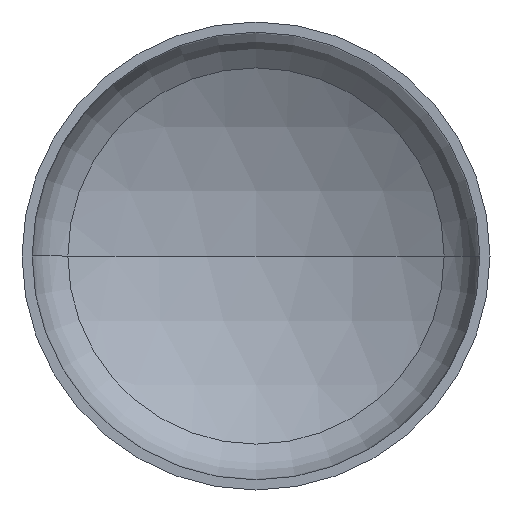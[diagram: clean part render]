
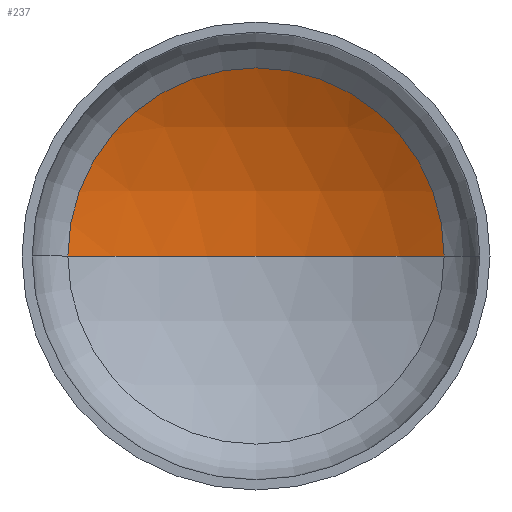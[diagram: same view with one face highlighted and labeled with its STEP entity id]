
A CAD part, front view. The second image highlights one B-rep face of the part: STEP entity #237.
In plain terms, the highlighted spherical face has radius 406 mm.
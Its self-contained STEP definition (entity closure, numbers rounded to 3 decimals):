
#12 = CIRCLE ( 'NONE', #102, 406. ) ;
#22 = DIRECTION ( 'NONE',  ( -1., 0., 0. ) ) ;
#24 = EDGE_LOOP ( 'NONE', ( #215, #160, #108 ) ) ;
#38 = VERTEX_POINT ( 'NONE', #251 ) ;
#41 = DIRECTION ( 'NONE',  ( 0., 0., -1. ) ) ;
#42 = AXIS2_PLACEMENT_3D ( 'NONE', #399, #41, #406 ) ;
#58 = VERTEX_POINT ( 'NONE', #308 ) ;
#93 = AXIS2_PLACEMENT_3D ( 'NONE', #398, #254, #201 ) ;
#97 = VERTEX_POINT ( 'NONE', #347 ) ;
#102 = AXIS2_PLACEMENT_3D ( 'NONE', #277, #111, #22 ) ;
#105 = AXIS2_PLACEMENT_3D ( 'NONE', #216, #300, #123 ) ;
#108 = ORIENTED_EDGE ( 'NONE', *, *, #181, .T. ) ;
#111 = DIRECTION ( 'NONE',  ( 0., 0., -1. ) ) ;
#114 = SPHERICAL_SURFACE ( 'NONE', #42, 406. ) ;
#123 = DIRECTION ( 'NONE',  ( 1., 0., 0. ) ) ;
#157 = CIRCLE ( 'NONE', #93, 406. ) ;
#160 = ORIENTED_EDGE ( 'NONE', *, *, #185, .T. ) ;
#166 = CIRCLE ( 'NONE', #105, 204.238 ) ;
#181 = EDGE_CURVE ( 'NONE', #58, #97, #166, .T. ) ;
#185 = EDGE_CURVE ( 'NONE', #38, #58, #12, .T. ) ;
#187 = EDGE_CURVE ( 'NONE', #38, #97, #157, .T. ) ;
#201 = DIRECTION ( 'NONE',  ( 1., 0., 0. ) ) ;
#215 = ORIENTED_EDGE ( 'NONE', *, *, #187, .F. ) ;
#216 = CARTESIAN_POINT ( 'NONE',  ( 0., 107.412, 0. ) ) ;
#237 = ADVANCED_FACE ( 'NONE', ( #408 ), #114, .F. ) ;
#251 = CARTESIAN_POINT ( 'NONE',  ( 0., 162.523, 0. ) ) ;
#254 = DIRECTION ( 'NONE',  ( 0., 0., 1. ) ) ;
#277 = CARTESIAN_POINT ( 'NONE',  ( 0., -243.477, 0. ) ) ;
#300 = DIRECTION ( 'NONE',  ( 0., -1., 0. ) ) ;
#308 = CARTESIAN_POINT ( 'NONE',  ( 204.238, 107.412, 0. ) ) ;
#347 = CARTESIAN_POINT ( 'NONE',  ( -204.238, 107.412, 0. ) ) ;
#398 = CARTESIAN_POINT ( 'NONE',  ( 0., -243.477, 0. ) ) ;
#399 = CARTESIAN_POINT ( 'NONE',  ( 0., -243.477, 0. ) ) ;
#406 = DIRECTION ( 'NONE',  ( -1., 0., 0. ) ) ;
#408 = FACE_OUTER_BOUND ( 'NONE', #24, .T. ) ;
